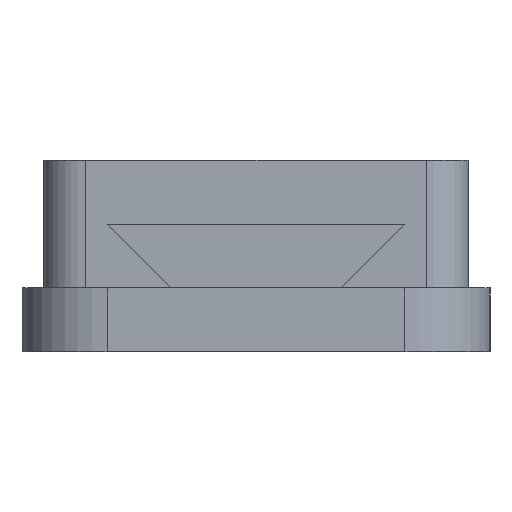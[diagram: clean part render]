
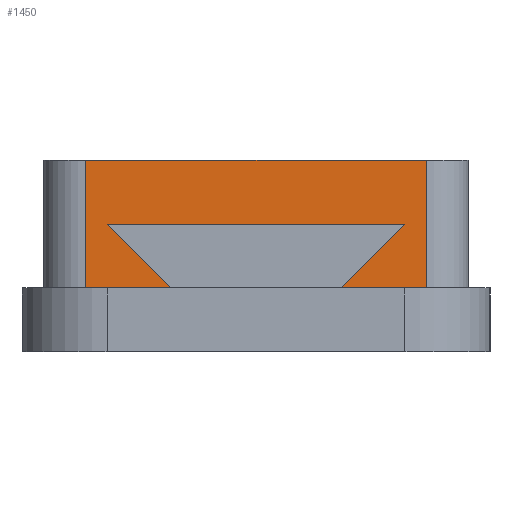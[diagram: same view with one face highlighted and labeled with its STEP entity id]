
A CAD part, left-side view. The second image highlights one B-rep face of the part: STEP entity #1450.
In plain terms, the highlighted planar face has unit normal (-1, 0, 0).
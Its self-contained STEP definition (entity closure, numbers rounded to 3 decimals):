
#90 = PLANE('',#91);
#91 = AXIS2_PLACEMENT_3D('',#92,#93,#94);
#92 = CARTESIAN_POINT('',(0.,0.,3.));
#93 = DIRECTION('',(0.,0.,1.));
#94 = DIRECTION('',(1.,0.,-0.));
#694 = VERTEX_POINT('',#695);
#695 = CARTESIAN_POINT('',(-3.,-4.,3.));
#709 = PLANE('',#710);
#710 = AXIS2_PLACEMENT_3D('',#711,#712,#713);
#711 = CARTESIAN_POINT('',(-100.,-7.,6.));
#712 = DIRECTION('',(-0.,0.707,0.707));
#713 = DIRECTION('',(0.,0.707,-0.707));
#750 = VERTEX_POINT('',#751);
#751 = CARTESIAN_POINT('',(-3.,4.,3.));
#765 = PLANE('',#766);
#766 = AXIS2_PLACEMENT_3D('',#767,#768,#769);
#767 = CARTESIAN_POINT('',(-100.,4.,3.));
#768 = DIRECTION('',(0.,-0.707,0.707));
#769 = DIRECTION('',(0.,0.707,0.707));
#777 = EDGE_CURVE('',#750,#778,#780,.T.);
#778 = VERTEX_POINT('',#779);
#779 = CARTESIAN_POINT('',(-3.,8.,3.));
#780 = SURFACE_CURVE('',#781,(#785,#792),.PCURVE_S1.);
#781 = LINE('',#782,#783);
#782 = CARTESIAN_POINT('',(-3.,0.,3.));
#783 = VECTOR('',#784,1.);
#784 = DIRECTION('',(0.,1.,0.));
#785 = PCURVE('',#90,#786);
#786 = DEFINITIONAL_REPRESENTATION('',(#787),#791);
#787 = LINE('',#788,#789);
#788 = CARTESIAN_POINT('',(-3.,0.));
#789 = VECTOR('',#790,1.);
#790 = DIRECTION('',(0.,1.));
#791 = ( GEOMETRIC_REPRESENTATION_CONTEXT(2) 
PARAMETRIC_REPRESENTATION_CONTEXT() REPRESENTATION_CONTEXT('2D SPACE',''
  ) );
#792 = PCURVE('',#793,#798);
#793 = PLANE('',#794);
#794 = AXIS2_PLACEMENT_3D('',#795,#796,#797);
#795 = CARTESIAN_POINT('',(-3.,-8.,3.));
#796 = DIRECTION('',(-1.,0.,0.));
#797 = DIRECTION('',(0.,1.,0.));
#798 = DEFINITIONAL_REPRESENTATION('',(#799),#803);
#799 = LINE('',#800,#801);
#800 = CARTESIAN_POINT('',(8.,0.));
#801 = VECTOR('',#802,1.);
#802 = DIRECTION('',(1.,0.));
#803 = ( GEOMETRIC_REPRESENTATION_CONTEXT(2) 
PARAMETRIC_REPRESENTATION_CONTEXT() REPRESENTATION_CONTEXT('2D SPACE',''
  ) );
#822 = CYLINDRICAL_SURFACE('',#823,2.);
#823 = AXIS2_PLACEMENT_3D('',#824,#825,#826);
#824 = CARTESIAN_POINT('',(-1.,8.,3.));
#825 = DIRECTION('',(-0.,-0.,-1.));
#826 = DIRECTION('',(1.,0.,0.));
#1084 = VERTEX_POINT('',#1085);
#1085 = CARTESIAN_POINT('',(-3.,-8.,3.));
#1100 = CYLINDRICAL_SURFACE('',#1101,2.);
#1101 = AXIS2_PLACEMENT_3D('',#1102,#1103,#1104);
#1102 = CARTESIAN_POINT('',(-1.,-8.,3.));
#1103 = DIRECTION('',(-0.,-0.,-1.));
#1104 = DIRECTION('',(1.,0.,0.));
#1112 = EDGE_CURVE('',#1084,#694,#1113,.T.);
#1113 = SURFACE_CURVE('',#1114,(#1118,#1125),.PCURVE_S1.);
#1114 = LINE('',#1115,#1116);
#1115 = CARTESIAN_POINT('',(-3.,0.,3.));
#1116 = VECTOR('',#1117,1.);
#1117 = DIRECTION('',(0.,1.,0.));
#1118 = PCURVE('',#90,#1119);
#1119 = DEFINITIONAL_REPRESENTATION('',(#1120),#1124);
#1120 = LINE('',#1121,#1122);
#1121 = CARTESIAN_POINT('',(-3.,0.));
#1122 = VECTOR('',#1123,1.);
#1123 = DIRECTION('',(0.,1.));
#1124 = ( GEOMETRIC_REPRESENTATION_CONTEXT(2) 
PARAMETRIC_REPRESENTATION_CONTEXT() REPRESENTATION_CONTEXT('2D SPACE',''
  ) );
#1125 = PCURVE('',#793,#1126);
#1126 = DEFINITIONAL_REPRESENTATION('',(#1127),#1131);
#1127 = LINE('',#1128,#1129);
#1128 = CARTESIAN_POINT('',(8.,0.));
#1129 = VECTOR('',#1130,1.);
#1130 = DIRECTION('',(1.,0.));
#1131 = ( GEOMETRIC_REPRESENTATION_CONTEXT(2) 
PARAMETRIC_REPRESENTATION_CONTEXT() REPRESENTATION_CONTEXT('2D SPACE',''
  ) );
#1355 = VERTEX_POINT('',#1356);
#1356 = CARTESIAN_POINT('',(-3.,-7.,6.));
#1370 = PLANE('',#1371);
#1371 = AXIS2_PLACEMENT_3D('',#1372,#1373,#1374);
#1372 = CARTESIAN_POINT('',(-100.,7.,6.));
#1373 = DIRECTION('',(0.,0.,-1.));
#1374 = DIRECTION('',(0.,-1.,0.));
#1382 = EDGE_CURVE('',#694,#1355,#1383,.T.);
#1383 = SURFACE_CURVE('',#1384,(#1388,#1394),.PCURVE_S1.);
#1384 = LINE('',#1385,#1386);
#1385 = CARTESIAN_POINT('',(-3.,-6.5,5.5));
#1386 = VECTOR('',#1387,1.);
#1387 = DIRECTION('',(0.,-0.707,0.707));
#1388 = PCURVE('',#709,#1389);
#1389 = DEFINITIONAL_REPRESENTATION('',(#1390),#1393);
#1390 = B_SPLINE_CURVE_WITH_KNOTS('',1,(#1391,#1392),.UNSPECIFIED.,.F.,
  .F.,(2,2),(-3.536,0.707),.PIECEWISE_BEZIER_KNOTS.);
#1391 = CARTESIAN_POINT('',(4.243,-97.));
#1392 = CARTESIAN_POINT('',(0.,-97.));
#1393 = ( GEOMETRIC_REPRESENTATION_CONTEXT(2) 
PARAMETRIC_REPRESENTATION_CONTEXT() REPRESENTATION_CONTEXT('2D SPACE',''
  ) );
#1394 = PCURVE('',#793,#1395);
#1395 = DEFINITIONAL_REPRESENTATION('',(#1396),#1399);
#1396 = B_SPLINE_CURVE_WITH_KNOTS('',1,(#1397,#1398),.UNSPECIFIED.,.F.,
  .F.,(2,2),(-3.536,0.707),.PIECEWISE_BEZIER_KNOTS.);
#1397 = CARTESIAN_POINT('',(4.,0.));
#1398 = CARTESIAN_POINT('',(1.,-3.));
#1399 = ( GEOMETRIC_REPRESENTATION_CONTEXT(2) 
PARAMETRIC_REPRESENTATION_CONTEXT() REPRESENTATION_CONTEXT('2D SPACE',''
  ) );
#1450 = ADVANCED_FACE('',(#1451),#793,.T.);
#1451 = FACE_BOUND('',#1452,.T.);
#1452 = EDGE_LOOP('',(#1453,#1454,#1477,#1505,#1526,#1527,#1548,#1567));
#1453 = ORIENTED_EDGE('',*,*,#1112,.F.);
#1454 = ORIENTED_EDGE('',*,*,#1455,.T.);
#1455 = EDGE_CURVE('',#1084,#1456,#1458,.T.);
#1456 = VERTEX_POINT('',#1457);
#1457 = CARTESIAN_POINT('',(-3.,-8.,9.));
#1458 = SURFACE_CURVE('',#1459,(#1463,#1470),.PCURVE_S1.);
#1459 = LINE('',#1460,#1461);
#1460 = CARTESIAN_POINT('',(-3.,-8.,3.));
#1461 = VECTOR('',#1462,1.);
#1462 = DIRECTION('',(0.,0.,1.));
#1463 = PCURVE('',#793,#1464);
#1464 = DEFINITIONAL_REPRESENTATION('',(#1465),#1469);
#1465 = LINE('',#1466,#1467);
#1466 = CARTESIAN_POINT('',(0.,0.));
#1467 = VECTOR('',#1468,1.);
#1468 = DIRECTION('',(0.,-1.));
#1469 = ( GEOMETRIC_REPRESENTATION_CONTEXT(2) 
PARAMETRIC_REPRESENTATION_CONTEXT() REPRESENTATION_CONTEXT('2D SPACE',''
  ) );
#1470 = PCURVE('',#1100,#1471);
#1471 = DEFINITIONAL_REPRESENTATION('',(#1472),#1476);
#1472 = LINE('',#1473,#1474);
#1473 = CARTESIAN_POINT('',(-3.142,0.));
#1474 = VECTOR('',#1475,1.);
#1475 = DIRECTION('',(-0.,-1.));
#1476 = ( GEOMETRIC_REPRESENTATION_CONTEXT(2) 
PARAMETRIC_REPRESENTATION_CONTEXT() REPRESENTATION_CONTEXT('2D SPACE',''
  ) );
#1477 = ORIENTED_EDGE('',*,*,#1478,.T.);
#1478 = EDGE_CURVE('',#1456,#1479,#1481,.T.);
#1479 = VERTEX_POINT('',#1480);
#1480 = CARTESIAN_POINT('',(-3.,8.,9.));
#1481 = SURFACE_CURVE('',#1482,(#1486,#1493),.PCURVE_S1.);
#1482 = LINE('',#1483,#1484);
#1483 = CARTESIAN_POINT('',(-3.,0.,9.));
#1484 = VECTOR('',#1485,1.);
#1485 = DIRECTION('',(0.,1.,0.));
#1486 = PCURVE('',#793,#1487);
#1487 = DEFINITIONAL_REPRESENTATION('',(#1488),#1492);
#1488 = LINE('',#1489,#1490);
#1489 = CARTESIAN_POINT('',(8.,-6.));
#1490 = VECTOR('',#1491,1.);
#1491 = DIRECTION('',(1.,0.));
#1492 = ( GEOMETRIC_REPRESENTATION_CONTEXT(2) 
PARAMETRIC_REPRESENTATION_CONTEXT() REPRESENTATION_CONTEXT('2D SPACE',''
  ) );
#1493 = PCURVE('',#1494,#1499);
#1494 = PLANE('',#1495);
#1495 = AXIS2_PLACEMENT_3D('',#1496,#1497,#1498);
#1496 = CARTESIAN_POINT('',(0.,0.,9.));
#1497 = DIRECTION('',(0.,0.,1.));
#1498 = DIRECTION('',(1.,0.,-0.));
#1499 = DEFINITIONAL_REPRESENTATION('',(#1500),#1504);
#1500 = LINE('',#1501,#1502);
#1501 = CARTESIAN_POINT('',(-3.,0.));
#1502 = VECTOR('',#1503,1.);
#1503 = DIRECTION('',(0.,1.));
#1504 = ( GEOMETRIC_REPRESENTATION_CONTEXT(2) 
PARAMETRIC_REPRESENTATION_CONTEXT() REPRESENTATION_CONTEXT('2D SPACE',''
  ) );
#1505 = ORIENTED_EDGE('',*,*,#1506,.F.);
#1506 = EDGE_CURVE('',#778,#1479,#1507,.T.);
#1507 = SURFACE_CURVE('',#1508,(#1512,#1519),.PCURVE_S1.);
#1508 = LINE('',#1509,#1510);
#1509 = CARTESIAN_POINT('',(-3.,8.,3.));
#1510 = VECTOR('',#1511,1.);
#1511 = DIRECTION('',(0.,0.,1.));
#1512 = PCURVE('',#793,#1513);
#1513 = DEFINITIONAL_REPRESENTATION('',(#1514),#1518);
#1514 = LINE('',#1515,#1516);
#1515 = CARTESIAN_POINT('',(16.,0.));
#1516 = VECTOR('',#1517,1.);
#1517 = DIRECTION('',(0.,-1.));
#1518 = ( GEOMETRIC_REPRESENTATION_CONTEXT(2) 
PARAMETRIC_REPRESENTATION_CONTEXT() REPRESENTATION_CONTEXT('2D SPACE',''
  ) );
#1519 = PCURVE('',#822,#1520);
#1520 = DEFINITIONAL_REPRESENTATION('',(#1521),#1525);
#1521 = LINE('',#1522,#1523);
#1522 = CARTESIAN_POINT('',(-3.142,0.));
#1523 = VECTOR('',#1524,1.);
#1524 = DIRECTION('',(-0.,-1.));
#1525 = ( GEOMETRIC_REPRESENTATION_CONTEXT(2) 
PARAMETRIC_REPRESENTATION_CONTEXT() REPRESENTATION_CONTEXT('2D SPACE',''
  ) );
#1526 = ORIENTED_EDGE('',*,*,#777,.F.);
#1527 = ORIENTED_EDGE('',*,*,#1528,.F.);
#1528 = EDGE_CURVE('',#1529,#750,#1531,.T.);
#1529 = VERTEX_POINT('',#1530);
#1530 = CARTESIAN_POINT('',(-3.,7.,6.));
#1531 = SURFACE_CURVE('',#1532,(#1536,#1542),.PCURVE_S1.);
#1532 = LINE('',#1533,#1534);
#1533 = CARTESIAN_POINT('',(-3.,1.,0.));
#1534 = VECTOR('',#1535,1.);
#1535 = DIRECTION('',(-0.,-0.707,-0.707));
#1536 = PCURVE('',#793,#1537);
#1537 = DEFINITIONAL_REPRESENTATION('',(#1538),#1541);
#1538 = B_SPLINE_CURVE_WITH_KNOTS('',1,(#1539,#1540),.UNSPECIFIED.,.F.,
  .F.,(2,2),(-8.485,-4.243),.PIECEWISE_BEZIER_KNOTS.);
#1539 = CARTESIAN_POINT('',(15.,-3.));
#1540 = CARTESIAN_POINT('',(12.,0.));
#1541 = ( GEOMETRIC_REPRESENTATION_CONTEXT(2) 
PARAMETRIC_REPRESENTATION_CONTEXT() REPRESENTATION_CONTEXT('2D SPACE',''
  ) );
#1542 = PCURVE('',#765,#1543);
#1543 = DEFINITIONAL_REPRESENTATION('',(#1544),#1547);
#1544 = B_SPLINE_CURVE_WITH_KNOTS('',1,(#1545,#1546),.UNSPECIFIED.,.F.,
  .F.,(2,2),(-8.485,-4.243),.PIECEWISE_BEZIER_KNOTS.);
#1545 = CARTESIAN_POINT('',(4.243,-97.));
#1546 = CARTESIAN_POINT('',(0.,-97.));
#1547 = ( GEOMETRIC_REPRESENTATION_CONTEXT(2) 
PARAMETRIC_REPRESENTATION_CONTEXT() REPRESENTATION_CONTEXT('2D SPACE',''
  ) );
#1548 = ORIENTED_EDGE('',*,*,#1549,.F.);
#1549 = EDGE_CURVE('',#1355,#1529,#1550,.T.);
#1550 = SURFACE_CURVE('',#1551,(#1555,#1561),.PCURVE_S1.);
#1551 = LINE('',#1552,#1553);
#1552 = CARTESIAN_POINT('',(-3.,-0.5,6.));
#1553 = VECTOR('',#1554,1.);
#1554 = DIRECTION('',(0.,1.,0.));
#1555 = PCURVE('',#793,#1556);
#1556 = DEFINITIONAL_REPRESENTATION('',(#1557),#1560);
#1557 = B_SPLINE_CURVE_WITH_KNOTS('',1,(#1558,#1559),.UNSPECIFIED.,.F.,
  .F.,(2,2),(-6.5,7.5),.PIECEWISE_BEZIER_KNOTS.);
#1558 = CARTESIAN_POINT('',(1.,-3.));
#1559 = CARTESIAN_POINT('',(15.,-3.));
#1560 = ( GEOMETRIC_REPRESENTATION_CONTEXT(2) 
PARAMETRIC_REPRESENTATION_CONTEXT() REPRESENTATION_CONTEXT('2D SPACE',''
  ) );
#1561 = PCURVE('',#1370,#1562);
#1562 = DEFINITIONAL_REPRESENTATION('',(#1563),#1566);
#1563 = B_SPLINE_CURVE_WITH_KNOTS('',1,(#1564,#1565),.UNSPECIFIED.,.F.,
  .F.,(2,2),(-6.5,7.5),.PIECEWISE_BEZIER_KNOTS.);
#1564 = CARTESIAN_POINT('',(14.,-97.));
#1565 = CARTESIAN_POINT('',(0.,-97.));
#1566 = ( GEOMETRIC_REPRESENTATION_CONTEXT(2) 
PARAMETRIC_REPRESENTATION_CONTEXT() REPRESENTATION_CONTEXT('2D SPACE',''
  ) );
#1567 = ORIENTED_EDGE('',*,*,#1382,.F.);
